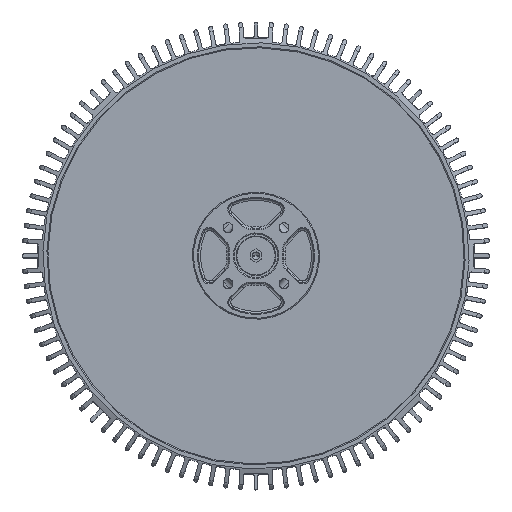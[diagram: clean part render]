
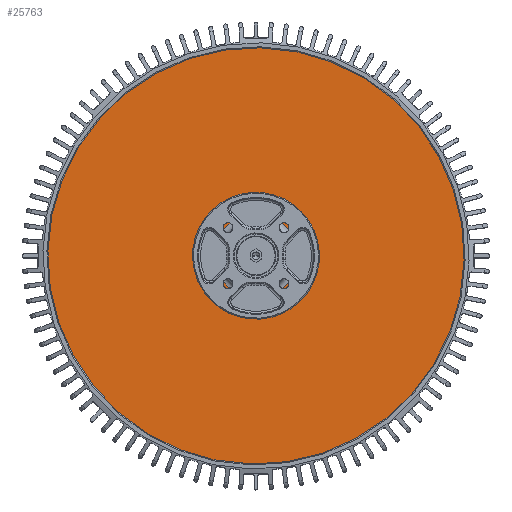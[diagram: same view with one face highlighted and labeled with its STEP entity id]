
A CAD part, top view. The second image highlights one B-rep face of the part: STEP entity #25763.
In plain terms, the highlighted planar face has unit normal (0, 0, 1).
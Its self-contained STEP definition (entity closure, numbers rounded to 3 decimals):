
#483 = CARTESIAN_POINT ( 'NONE',  ( 0., 0., 25. ) ) ;
#926 = VERTEX_POINT ( 'NONE', #29790 ) ;
#1085 = CARTESIAN_POINT ( 'NONE',  ( 46.073, 25.17, 25. ) ) ;
#7664 = DIRECTION ( 'NONE',  ( 1., 0., 0. ) ) ;
#11019 = FACE_BOUND ( 'NONE', #12611, .T. ) ;
#11221 = EDGE_CURVE ( 'NONE', #46351, #22779, #19829, .T. ) ;
#11283 = PLANE ( 'NONE',  #25073 ) ;
#12611 = EDGE_LOOP ( 'NONE', ( #22740, #29167 ) ) ;
#13426 = CARTESIAN_POINT ( 'NONE',  ( 9.215, 5.034, 25. ) ) ;
#14886 = AXIS2_PLACEMENT_3D ( 'NONE', #34159, #25966, #51487 ) ;
#15866 = CARTESIAN_POINT ( 'NONE',  ( 0., 0., 25. ) ) ;
#16140 = DIRECTION ( 'NONE',  ( 1., 0., 0. ) ) ;
#16557 = EDGE_CURVE ( 'NONE', #47047, #926, #51661, .T. ) ;
#19829 = CIRCLE ( 'NONE', #40827, 10.5 ) ;
#20020 = DIRECTION ( 'NONE',  ( 0., 0., 1. ) ) ;
#20400 = CIRCLE ( 'NONE', #37009, 10.5 ) ;
#22740 = ORIENTED_EDGE ( 'NONE', *, *, #11221, .F. ) ;
#22779 = VERTEX_POINT ( 'NONE', #13426 ) ;
#25073 = AXIS2_PLACEMENT_3D ( 'NONE', #27944, #20020, #28479 ) ;
#25763 = ADVANCED_FACE ( 'NONE', ( #48546, #11019 ), #11283, .T. ) ;
#25966 = DIRECTION ( 'NONE',  ( 0., 0., 1. ) ) ;
#27944 = CARTESIAN_POINT ( 'NONE',  ( 52.141, 0., 25. ) ) ;
#28479 = DIRECTION ( 'NONE',  ( 1., 0., 0. ) ) ;
#28687 = DIRECTION ( 'NONE',  ( 0., 0., 1. ) ) ;
#29167 = ORIENTED_EDGE ( 'NONE', *, *, #35663, .F. ) ;
#29790 = CARTESIAN_POINT ( 'NONE',  ( -46.073, -25.17, 25. ) ) ;
#29975 = AXIS2_PLACEMENT_3D ( 'NONE', #53541, #44213, #36505 ) ;
#31393 = CARTESIAN_POINT ( 'NONE',  ( -9.215, -5.034, 25. ) ) ;
#32250 = ORIENTED_EDGE ( 'NONE', *, *, #16557, .T. ) ;
#34159 = CARTESIAN_POINT ( 'NONE',  ( 0., 0., 25. ) ) ;
#35663 = EDGE_CURVE ( 'NONE', #22779, #46351, #20400, .T. ) ;
#36505 = DIRECTION ( 'NONE',  ( 1., 0., 0. ) ) ;
#37009 = AXIS2_PLACEMENT_3D ( 'NONE', #15866, #40792, #7664 ) ;
#40792 = DIRECTION ( 'NONE',  ( 0., 0., 1. ) ) ;
#40827 = AXIS2_PLACEMENT_3D ( 'NONE', #483, #28687, #16140 ) ;
#44213 = DIRECTION ( 'NONE',  ( 0., 0., 1. ) ) ;
#44946 = CIRCLE ( 'NONE', #29975, 52.5 ) ;
#45296 = ORIENTED_EDGE ( 'NONE', *, *, #45806, .T. ) ;
#45806 = EDGE_CURVE ( 'NONE', #926, #47047, #44946, .T. ) ;
#46351 = VERTEX_POINT ( 'NONE', #31393 ) ;
#47047 = VERTEX_POINT ( 'NONE', #1085 ) ;
#48484 = EDGE_LOOP ( 'NONE', ( #32250, #45296 ) ) ;
#48546 = FACE_OUTER_BOUND ( 'NONE', #48484, .T. ) ;
#51487 = DIRECTION ( 'NONE',  ( 1., 0., 0. ) ) ;
#51661 = CIRCLE ( 'NONE', #14886, 52.5 ) ;
#53541 = CARTESIAN_POINT ( 'NONE',  ( 0., 0., 25. ) ) ;
